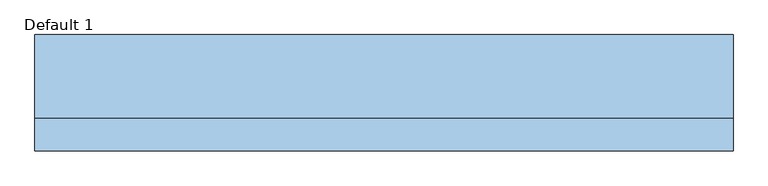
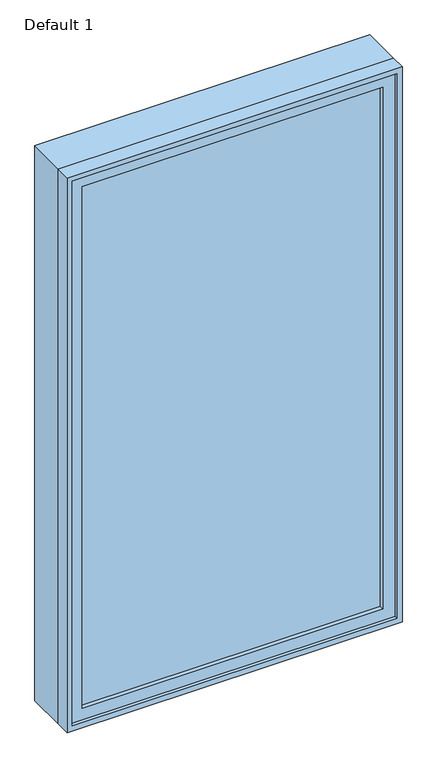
"""IFC4 building model written with IfcOpenShell, lengths in millimetres: window geometry, Planitar-Fixed : Default 1."""

from ifc_helpers import new_model, si_unit, frame, origin, place, context, project, spatial, polyline, outline, extrude, source, transform, mapped, element, save


def default_1_7d7789d7(model_context):
    return source(origin(), model_context, "Body", "SweptSolid", [
        extrude(outline(polyline([(3029.0, -590.6), (933.4, -590.6), (933.4, 590.6), (3029.0, 590.6), (3029.0, -590.6)]), holes=[polyline([(2985.0, -546.6), (2985.0, 546.6), (977.4, 546.6), (977.4, -546.6), (2985.0, -546.6)])]), frame((0.0, -101.9, 0.0), z_axis=(0.0, 1.0, 0.0), x_axis=(0.0, 0.0, 1.0)), (0.0, 0.0, 1.0), 44.0),
        extrude(outline(polyline([(3048.0, -609.6), (914.4, -609.6), (914.4, 609.6), (3048.0, 609.6), (3048.0, -609.6)]), holes=[polyline([(3029.0, -590.6), (3029.0, 590.6), (933.4, 590.6), (933.4, -590.6), (3029.0, -590.6)])]), frame((0.0, -114.6, 0.0), z_axis=(0.0, 1.0, 0.0), x_axis=(0.0, 0.0, 1.0)), (0.0, 0.0, 1.0), 56.7),
        extrude(outline(polyline([(3048.0, -609.6), (914.4, -609.6), (914.4, 609.6), (3048.0, 609.6), (3048.0, -609.6)]), holes=[polyline([(3016.0, -577.6), (3016.0, 577.6), (946.4, 577.6), (946.4, -577.6), (3016.0, -577.6)])]), frame((0.0, -57.9, 0.0), z_axis=(0.0, 1.0, 0.0), x_axis=(0.0, 0.0, 1.0)), (0.0, 0.0, 1.0), 146.5),
        extrude(outline(polyline([(-546.6, -85.9), (-546.6, -73.9), (546.6, -73.9), (546.6, -85.9), (-546.6, -85.9)])), frame((0.0, 0.0, 977.4), z_axis=(0.0, 0.0, 1.0), x_axis=(1.0, 0.0, 0.0)), (0.0, 0.0, 1.0), 2007.6),
    ])


if __name__ == "__main__":
    model = new_model("IFC4")
    model_context = context("Model", 3, world=origin())
    ifc_project = project(units=[si_unit("LENGTHUNIT", "METRE", prefix="MILLI")], contexts=[model_context])
    site = spatial("IfcSite", under=ifc_project)
    building = spatial("IfcBuilding", under=site)
    placement = place(None, origin())
    default_1_shape = default_1_7d7789d7(model_context)
    element("IfcWindow", 1, ObjectType="Planitar-Fixed : Default 1", at=placement, inside=building, context=model_context, shape_type="MappedRepresentation", body=[
        mapped(default_1_shape, transform((0.0, 0.0, 0.0), x_axis=(1.0, 0.0, 0.0), y_axis=(0.0, 1.0, 0.0), z_axis=(0.0, 0.0, 1.0))),
    ])
    save(model, "model.ifc")
